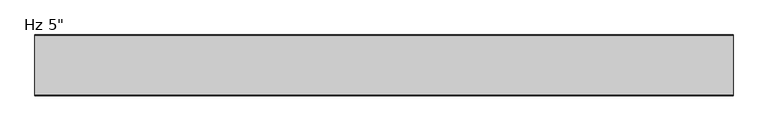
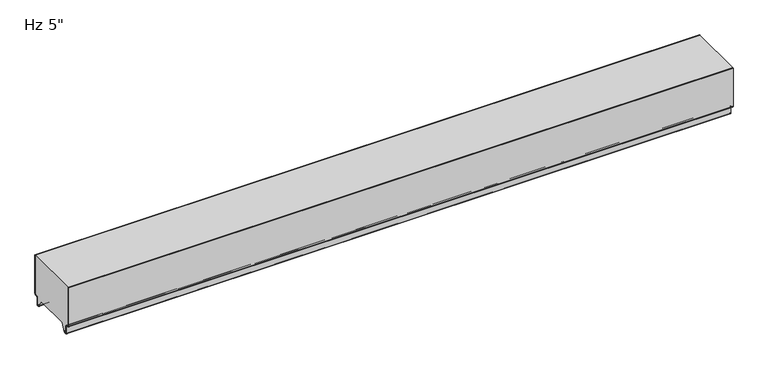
"""IFC4 building model written with IfcOpenShell, lengths in millimetres: plate geometry."""

from ifc_helpers import new_model, si_unit, frame, origin, place, context, project, spatial, polyline, circle_curve, source, transform, mapped, element, save
from ifc_brep_helpers import plane_surface, cylinder_surface, revolved_surface, advanced_brep


def plate_8e9a1042(model_context):
    return source(origin(), model_context, "Body", "AdvancedBrep", [
        advanced_brep(
        [(-730.0, -2.9776189, 3.8501063), (-730.0, -1.0007088, 5.8270163), (-730.0, -1.0007088, 94.95), (-730.0, 0.0, 94.95), (-730.0, 0.0, 5.8272211), (-730.0, -2.977286, 2.8499526), (-730.0, -5.2691698, 2.8499526), (-730.0, -8.2464384, -0.1273159), (-730.0, -8.2464384, -15.7237419), (-730.0, -9.8343149, -17.3116185), (-730.0, -12.9058636, -17.3116185), (-730.0, -14.4937401, -15.7237419), (-730.0, -14.4937401, -13.3687064), (-730.0, -13.4937365, -13.3687064), (-730.0, -13.4937365, -15.7237374), (-730.0, -12.9058654, -16.3116086), (-730.0, -9.834334, -16.3116086), (-730.0, -9.2464768, -15.7237514), (-730.0, -9.2464768, -0.1272391), (-730.0, -5.2691315, 3.8501063), (730.0, -2.9776189, 3.8501063), (730.0, -5.2691315, 3.8501063), (730.0, -9.2464768, -0.1272391), (730.0, -9.2464768, -15.7237514), (730.0, -9.834334, -16.3116086), (730.0, -12.9058654, -16.3116086), (730.0, -13.4937365, -15.7237374), (730.0, -13.4937365, -13.3687064), (730.0, -14.4937401, -13.3687064), (730.0, -14.4937401, -15.7237419), (730.0, -12.9058636, -17.3116185), (730.0, -9.8343149, -17.3116185), (730.0, -8.2464384, -15.7237419), (730.0, -8.2464384, -0.1273159), (730.0, -5.2691698, 2.8499526), (730.0, -2.977286, 2.8499526), (730.0, -1.75e-05, 5.8272211), (730.0, 0.0, 94.95), (730.0, -1.0007088, 94.95), (730.0, -1.0007088, 5.8270163)],
        [
            (0, 1, circle_curve(frame((-730.0, -2.9776189, 5.8270163), z_axis=(1.0, 0.0, 0.0), x_axis=(0.0, 1.0, 0.0)), 1.9769101)),
            (1, 2),
            (2, 3),
            (3, 4),
            (4, 5, circle_curve(frame((-730.0, -2.977286, 5.8272211), z_axis=(-1.0, 0.0, 0.0), x_axis=(0.0, 1.0, 0.0)), 2.9772685)),
            (5, 6),
            (6, 7, circle_curve(frame((-730.0, -5.2691698, -0.1273159), z_axis=(1.0, 0.0, 0.0), x_axis=(0.0, 1.0, 0.0)), 2.9772685)),
            (7, 8),
            (8, 9, circle_curve(frame((-730.0, -9.8343149, -15.7237419), z_axis=(-1.0, 0.0, 0.0), x_axis=(0.0, 1.0, 0.0)), 1.5878765)),
            (9, 10),
            (10, 11, circle_curve(frame((-730.0, -12.9058636, -15.7237419), z_axis=(-1.0, 0.0, 0.0), x_axis=(0.0, 1.0, 0.0)), 1.5878765)),
            (11, 12),
            (12, 13),
            (13, 14),
            (14, 15, circle_curve(frame((-730.0, -12.9058654, -15.7237374), z_axis=(1.0, 0.0, 0.0), x_axis=(0.0, 1.0, 0.0)), 0.5878711)),
            (15, 16),
            (16, 17, circle_curve(frame((-730.0, -9.834334, -15.7237514), z_axis=(1.0, 0.0, 0.0), x_axis=(0.0, 1.0, 0.0)), 0.5878572)),
            (17, 18),
            (18, 19, circle_curve(frame((-730.0, -5.2691315, -0.1272391), z_axis=(-1.0, 0.0, 0.0), x_axis=(0.0, 1.0, 0.0)), 3.9773454)),
            (19, 0),
            (20, 21),
            (21, 22, circle_curve(frame((730.0, -5.2691315, -0.1272391), z_axis=(1.0, 0.0, 0.0), x_axis=(0.0, 1.0, 0.0)), 3.9773454)),
            (22, 23),
            (23, 24, circle_curve(frame((730.0, -9.834334, -15.7237514), z_axis=(-1.0, 0.0, 0.0), x_axis=(0.0, 1.0, 0.0)), 0.5878572)),
            (24, 25),
            (25, 26, circle_curve(frame((730.0, -12.9058654, -15.7237374), z_axis=(-1.0, 0.0, 0.0), x_axis=(0.0, 1.0, 0.0)), 0.5878711)),
            (26, 27),
            (27, 28),
            (28, 29),
            (29, 30, circle_curve(frame((730.0, -12.9058636, -15.7237419), z_axis=(1.0, 0.0, 0.0), x_axis=(0.0, 1.0, 0.0)), 1.5878765)),
            (30, 31),
            (31, 32, circle_curve(frame((730.0, -9.8343149, -15.7237419), z_axis=(1.0, 0.0, 0.0), x_axis=(0.0, 1.0, 0.0)), 1.5878765)),
            (32, 33),
            (33, 34, circle_curve(frame((730.0, -5.2691698, -0.1273159), z_axis=(-1.0, 0.0, 0.0), x_axis=(0.0, 1.0, 0.0)), 2.9772685)),
            (34, 35),
            (35, 36, circle_curve(frame((730.0, -2.977286, 5.8272211), z_axis=(1.0, 0.0, 0.0), x_axis=(0.0, 1.0, 0.0)), 2.9772685)),
            (36, 37),
            (37, 38),
            (38, 39),
            (39, 20, circle_curve(frame((730.0, -2.9776189, 5.8270163), z_axis=(-1.0, 0.0, 0.0), x_axis=(0.0, 1.0, 0.0)), 1.9769101)),
            (2, 38),
            (37, 3),
            (19, 21),
            (20, 0),
            (18, 22),
            (17, 23),
            (16, 24),
            (15, 25),
            (14, 26),
            (13, 27),
            (12, 28),
            (11, 29),
            (10, 30),
            (9, 31),
            (8, 32),
            (7, 33),
            (6, 34),
            (5, 35),
            (4, 36),
            (1, 39),
        ],
        [
            plane_surface(frame((-730.0, 0.0, 576.2625), z_axis=(-1.0, 0.0, 0.0), x_axis=(0.0, 1.0, 0.0))),
            plane_surface(frame((730.0, 0.0, 576.2625), z_axis=(1.0, 0.0, 0.0), x_axis=(0.0, 1.0, 0.0))),
            plane_surface(frame((730.0, 10.0, 94.95), z_axis=(0.0, 0.0, 1.0), x_axis=(-1.0, 0.0, 0.0))),
            plane_surface(frame((-730.0, -2.9776189, 3.8501063), z_axis=(0.0, 0.0, 1.0), x_axis=(1.0, 0.0, 0.0))),
            cylinder_surface(frame((-730.0, -5.2691315, -0.1272391), z_axis=(-1.0, 0.0, 0.0), x_axis=(0.0, 1.0, 0.0)), 3.9773454),
            plane_surface(frame((-730.0, -9.2464768, -0.1272391), z_axis=(0.0, -1.0, 0.0), x_axis=(1.0, 0.0, 0.0))),
            revolved_surface(polyline([(730.0, -9.2464768, -15.7237514), (-730.0, -9.2464768, -15.7237514)]), (-730.0, -9.834334, -15.7237514), (1.0, 0.0, 0.0)),
            plane_surface(frame((-730.0, -9.834334, -16.3116086), z_axis=(0.0, 0.0, 1.0), x_axis=(1.0, 0.0, 0.0))),
            revolved_surface(polyline([(730.0, -12.3179943, -15.7237374), (-730.0, -12.3179943, -15.7237374)]), (-730.0, -12.9058654, -15.7237374), (1.0, 0.0, 0.0)),
            plane_surface(frame((-730.0, -13.4937365, -15.7237374), z_axis=(0.0, 1.0, 0.0), x_axis=(1.0, 0.0, 0.0))),
            plane_surface(frame((-730.0, -13.4937365, -13.3687064), z_axis=(0.0, 0.0, 1.0), x_axis=(1.0, 0.0, 0.0))),
            plane_surface(frame((-730.0, -14.4937401, -13.3687064), z_axis=(0.0, -1.0, 0.0), x_axis=(1.0, 0.0, 0.0))),
            cylinder_surface(frame((-730.0, -12.9058636, -15.7237419), z_axis=(-1.0, 0.0, 0.0), x_axis=(0.0, 1.0, 0.0)), 1.5878765),
            plane_surface(frame((-730.0, -12.9058636, -17.3116185), z_axis=(0.0, 0.0, -1.0), x_axis=(1.0, 0.0, 0.0))),
            cylinder_surface(frame((-730.0, -9.8343149, -15.7237419), z_axis=(-1.0, 0.0, 0.0), x_axis=(0.0, 1.0, 0.0)), 1.5878765),
            plane_surface(frame((-730.0, -8.2464384, -15.7237419), z_axis=(0.0, 1.0, 0.0), x_axis=(1.0, 0.0, 0.0))),
            revolved_surface(polyline([(730.0, -2.2919013, -0.1273159), (-730.0, -2.2919013, -0.1273159)]), (-730.0, -5.2691698, -0.1273159), (1.0, 0.0, 0.0)),
            plane_surface(frame((-730.0, -5.2691698, 2.8499526), z_axis=(0.0, 0.0, -1.0), x_axis=(1.0, 0.0, 0.0))),
            cylinder_surface(frame((-730.0, -2.977286, 5.8272211), z_axis=(-1.0, 0.0, 0.0), x_axis=(0.0, 1.0, 0.0)), 2.9772685),
            plane_surface(frame((-730.0, 0.0, 5.8272211), z_axis=(0.0, 1.0, 0.0), x_axis=(1.0, 0.0, 0.0))),
            plane_surface(frame((-730.0, -1.0007088, 1150.812837), z_axis=(0.0, -1.0, 0.0), x_axis=(1.0, 0.0, 0.0))),
            revolved_surface(polyline([(730.0, -1.0007088, 5.8270163), (-730.0, -1.0007088, 5.8270163)]), (-730.0, -2.9776189, 5.8270163), (1.0, 0.0, 0.0)),
        ],
        [
            (0, [[1, 2, 3, 4, 5, 6, 7, 8, 9, 10, 11, 12, 13, 14, 15, 16, 17, 18, 19, 20]]),
            (1, [[21, 22, 23, 24, 25, 26, 27, 28, 29, 30, 31, 32, 33, 34, 35, 36, 37, 38, 39, 40]]),
            (2, [[41, -38, 42, -3]]),
            (3, [[43, -21, 44, -20]]),
            (4, [[45, -22, -43, -19]]),
            (5, [[46, -23, -45, -18]]),
            (6, [[47, -24, -46, -17]]),
            (7, [[48, -25, -47, -16]]),
            (8, [[49, -26, -48, -15]]),
            (9, [[50, -27, -49, -14]]),
            (10, [[51, -28, -50, -13]]),
            (11, [[52, -29, -51, -12]]),
            (12, [[53, -30, -52, -11]]),
            (13, [[54, -31, -53, -10]]),
            (14, [[55, -32, -54, -9]]),
            (15, [[56, -33, -55, -8]]),
            (16, [[57, -34, -56, -7]]),
            (17, [[58, -35, -57, -6]]),
            (18, [[59, -36, -58, -5]]),
            (19, [[-4, -42, -37, -59]]),
            (20, [[-39, -41, -2, 60]]),
            (21, [[-44, -40, -60, -1]]),
        ],
    ),
        advanced_brep(
        [(-730.0, -124.0223811, 3.8501063), (-730.0, -121.7308685, 3.8501063), (-730.0, -117.7535232, -0.1272391), (-730.0, -117.7535232, -15.7237514), (-730.0, -117.165666, -16.3116086), (-730.0, -114.0941346, -16.3116086), (-730.0, -113.5062635, -15.7237374), (-730.0, -113.5062635, -13.3687064), (-730.0, -112.5062599, -13.3687064), (-730.0, -112.5062599, -15.7237419), (-730.0, -114.0941364, -17.3116185), (-730.0, -117.1656851, -17.3116185), (-730.0, -118.7535616, -15.7237419), (-730.0, -118.7535616, -0.1273159), (-730.0, -121.7308302, 2.8499526), (-730.0, -124.022714, 2.8499526), (-730.0, -126.9999825, 5.8272211), (-730.0, -127.0, 94.95), (-730.0, -125.9992912, 94.95), (-730.0, -125.9992912, 5.8270163), (730.0, -124.0223811, 3.8501063), (730.0, -125.9992912, 5.8270163), (730.0, -125.9992912, 94.95), (730.0, -127.0, 94.95), (730.0, -127.0, 5.8272211), (730.0, -124.022714, 2.8499526), (730.0, -121.7308302, 2.8499526), (730.0, -118.7535616, -0.1273159), (730.0, -118.7535616, -15.7237419), (730.0, -117.1656851, -17.3116185), (730.0, -114.0941364, -17.3116185), (730.0, -112.5062599, -15.7237419), (730.0, -112.5062599, -13.3687064), (730.0, -113.5062635, -13.3687064), (730.0, -113.5062635, -15.7237374), (730.0, -114.0941346, -16.3116086), (730.0, -117.165666, -16.3116086), (730.0, -117.7535232, -15.7237514), (730.0, -117.7535232, -0.1272391), (730.0, -121.7308685, 3.8501063)],
        [
            (0, 1),
            (1, 2, circle_curve(frame((-730.0, -121.7308685, -0.1272391), z_axis=(-1.0, 0.0, 0.0), x_axis=(0.0, 0.0, -1.0)), 3.9773454)),
            (2, 3),
            (3, 4, circle_curve(frame((-730.0, -117.165666, -15.7237514), z_axis=(1.0, 0.0, 0.0), x_axis=(0.0, 0.0, -1.0)), 0.5878572)),
            (4, 5),
            (5, 6, circle_curve(frame((-730.0, -114.0941346, -15.7237374), z_axis=(1.0, 0.0, 0.0), x_axis=(0.0, 0.0, -1.0)), 0.5878711)),
            (6, 7),
            (7, 8),
            (8, 9),
            (9, 10, circle_curve(frame((-730.0, -114.0941364, -15.7237419), z_axis=(-1.0, 0.0, 0.0), x_axis=(0.0, 0.0, -1.0)), 1.5878765)),
            (10, 11),
            (11, 12, circle_curve(frame((-730.0, -117.1656851, -15.7237419), z_axis=(-1.0, 0.0, 0.0), x_axis=(0.0, 0.0, -1.0)), 1.5878765)),
            (12, 13),
            (13, 14, circle_curve(frame((-730.0, -121.7308302, -0.1273159), z_axis=(1.0, 0.0, 0.0), x_axis=(0.0, 0.0, -1.0)), 2.9772685)),
            (14, 15),
            (15, 16, circle_curve(frame((-730.0, -124.022714, 5.8272211), z_axis=(-1.0, 0.0, 0.0), x_axis=(0.0, 0.0, -1.0)), 2.9772685)),
            (16, 17),
            (17, 18),
            (18, 19),
            (19, 0, circle_curve(frame((-730.0, -124.0223811, 5.8270163), z_axis=(1.0, 0.0, 0.0), x_axis=(0.0, 0.0, -1.0)), 1.9769101)),
            (20, 21, circle_curve(frame((730.0, -124.0223811, 5.8270163), z_axis=(-1.0, 0.0, 0.0), x_axis=(0.0, 0.0, -1.0)), 1.9769101)),
            (21, 22),
            (22, 23),
            (23, 24),
            (24, 25, circle_curve(frame((730.0, -124.022714, 5.8272211), z_axis=(1.0, 0.0, 0.0), x_axis=(0.0, 0.0, -1.0)), 2.9772685)),
            (25, 26),
            (26, 27, circle_curve(frame((730.0, -121.7308302, -0.1273159), z_axis=(-1.0, 0.0, 0.0), x_axis=(0.0, 0.0, -1.0)), 2.9772685)),
            (27, 28),
            (28, 29, circle_curve(frame((730.0, -117.1656851, -15.7237419), z_axis=(1.0, 0.0, 0.0), x_axis=(0.0, 0.0, -1.0)), 1.5878765)),
            (29, 30),
            (30, 31, circle_curve(frame((730.0, -114.0941364, -15.7237419), z_axis=(1.0, 0.0, 0.0), x_axis=(0.0, 0.0, -1.0)), 1.5878765)),
            (31, 32),
            (32, 33),
            (33, 34),
            (34, 35, circle_curve(frame((730.0, -114.0941346, -15.7237374), z_axis=(-1.0, 0.0, 0.0), x_axis=(0.0, 0.0, -1.0)), 0.5878711)),
            (35, 36),
            (36, 37, circle_curve(frame((730.0, -117.165666, -15.7237514), z_axis=(-1.0, 0.0, 0.0), x_axis=(0.0, 0.0, -1.0)), 0.5878572)),
            (37, 38),
            (38, 39, circle_curve(frame((730.0, -121.7308685, -0.1272391), z_axis=(1.0, 0.0, 0.0), x_axis=(0.0, 0.0, -1.0)), 3.9773454)),
            (39, 20),
            (17, 23),
            (22, 18),
            (19, 21),
            (20, 0),
            (16, 24),
            (15, 25),
            (14, 26),
            (13, 27),
            (12, 28),
            (11, 29),
            (10, 30),
            (9, 31),
            (8, 32),
            (7, 33),
            (6, 34),
            (5, 35),
            (4, 36),
            (3, 37),
            (2, 38),
            (1, 39),
        ],
        [
            plane_surface(frame((-730.0, -127.0, 576.2625), z_axis=(-1.0, 0.0, 0.0), x_axis=(0.0, -1.0, 0.0))),
            plane_surface(frame((730.0, -127.0, 576.2625), z_axis=(1.0, 0.0, 0.0), x_axis=(0.0, -1.0, 0.0))),
            plane_surface(frame((730.0, 10.0, 94.95), z_axis=(0.0, 0.0, 1.0), x_axis=(-1.0, 0.0, 0.0))),
            revolved_surface(polyline([(730.0, -124.0223811, 3.8501062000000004), (-730.0, -124.0223811, 3.8501062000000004)]), (-730.0, -124.0223811, 5.8270163), (1.0, 0.0, 0.0)),
            plane_surface(frame((-730.0, -125.9992912, 5.8270163), z_axis=(0.0, 1.0, 0.0), x_axis=(1.0, 0.0, 0.0))),
            plane_surface(frame((-730.0, -127.0, 1150.8100652), z_axis=(0.0, -1.0, 0.0), x_axis=(1.0, 0.0, 0.0))),
            cylinder_surface(frame((-730.0, -124.022714, 5.8272211), z_axis=(-1.0, 0.0, 0.0), x_axis=(0.0, 0.0, -1.0)), 2.9772685),
            plane_surface(frame((-730.0, -124.022714, 2.8499526), z_axis=(0.0, 0.0, -1.0), x_axis=(1.0, 0.0, 0.0))),
            revolved_surface(polyline([(730.0, -121.7308302, -3.1045844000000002), (-730.0, -121.7308302, -3.1045844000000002)]), (-730.0, -121.7308302, -0.1273159), (1.0, 0.0, 0.0)),
            plane_surface(frame((-730.0, -118.7535616, -0.1273159), z_axis=(0.0, -1.0, 0.0), x_axis=(1.0, 0.0, 0.0))),
            cylinder_surface(frame((-730.0, -117.1656851, -15.7237419), z_axis=(-1.0, 0.0, 0.0), x_axis=(0.0, 0.0, -1.0)), 1.5878765),
            plane_surface(frame((-730.0, -117.1656851, -17.3116185), z_axis=(0.0, 0.0, -1.0), x_axis=(1.0, 0.0, 0.0))),
            cylinder_surface(frame((-730.0, -114.0941364, -15.7237419), z_axis=(-1.0, 0.0, 0.0), x_axis=(0.0, 0.0, -1.0)), 1.5878765),
            plane_surface(frame((-730.0, -112.5062599, -15.7237419), z_axis=(0.0, 1.0, 0.0), x_axis=(1.0, 0.0, 0.0))),
            plane_surface(frame((-730.0, -112.5062599, -13.3687064), z_axis=(0.0, 0.0, 1.0), x_axis=(1.0, 0.0, 0.0))),
            plane_surface(frame((-730.0, -113.5062635, -13.3687064), z_axis=(0.0, -1.0, 0.0), x_axis=(1.0, 0.0, 0.0))),
            revolved_surface(polyline([(730.0, -114.0941346, -16.3116085), (-730.0, -114.0941346, -16.3116085)]), (-730.0, -114.0941346, -15.7237374), (1.0, 0.0, 0.0)),
            plane_surface(frame((-730.0, -114.0941346, -16.3116086), z_axis=(0.0, 0.0, 1.0), x_axis=(1.0, 0.0, 0.0))),
            revolved_surface(polyline([(730.0, -117.165666, -16.3116086), (-730.0, -117.165666, -16.3116086)]), (-730.0, -117.165666, -15.7237514), (1.0, 0.0, 0.0)),
            plane_surface(frame((-730.0, -117.7535232, -15.7237514), z_axis=(0.0, 1.0, 0.0), x_axis=(1.0, 0.0, 0.0))),
            cylinder_surface(frame((-730.0, -121.7308685, -0.1272391), z_axis=(-1.0, 0.0, 0.0), x_axis=(0.0, 0.0, -1.0)), 3.9773454),
            plane_surface(frame((-730.0, -121.7308685, 3.8501063), z_axis=(0.0, 0.0, 1.0), x_axis=(1.0, 0.0, 0.0))),
        ],
        [
            (0, [[1, 2, 3, 4, 5, 6, 7, 8, 9, 10, 11, 12, 13, 14, 15, 16, 17, 18, 19, 20]]),
            (1, [[21, 22, 23, 24, 25, 26, 27, 28, 29, 30, 31, 32, 33, 34, 35, 36, 37, 38, 39, 40]]),
            (2, [[41, -23, 42, -18]]),
            (3, [[43, -21, 44, -20]]),
            (4, [[-19, -42, -22, -43]]),
            (5, [[-24, -41, -17, 45]]),
            (6, [[46, -25, -45, -16]]),
            (7, [[47, -26, -46, -15]]),
            (8, [[48, -27, -47, -14]]),
            (9, [[49, -28, -48, -13]]),
            (10, [[50, -29, -49, -12]]),
            (11, [[51, -30, -50, -11]]),
            (12, [[52, -31, -51, -10]]),
            (13, [[53, -32, -52, -9]]),
            (14, [[54, -33, -53, -8]]),
            (15, [[55, -34, -54, -7]]),
            (16, [[56, -35, -55, -6]]),
            (17, [[57, -36, -56, -5]]),
            (18, [[58, -37, -57, -4]]),
            (19, [[59, -38, -58, -3]]),
            (20, [[60, -39, -59, -2]]),
            (21, [[-44, -40, -60, -1]]),
        ],
    ),
        advanced_brep(
        [(-730.0, -124.0227194, 3.8499499), (-730.0, -125.9999935, 5.8272239), (-730.0, -126.0, 94.95), (-730.0, -1.0, 94.95), (-730.0, -1.0, 5.8272239), (-730.0, -2.9772806, 3.8499499), (-730.0, -5.2691705, 3.8499499), (-730.0, -9.2464377, -0.1273173), (-730.0, -9.2464377, -15.7237417), (-730.0, -9.8343146, -16.3116186), (-730.0, -12.9058635, -16.3116186), (-730.0, -13.4937402, -15.723742), (-730.0, -13.4937402, -13.3687064), (-730.0, -14.4937402, -13.3687064), (-730.0, -14.4937402, -15.6582851), (-730.0, -23.7509135, 0.0), (-730.0, -103.2490865, 0.0), (-730.0, -112.5062598, -15.6582851), (-730.0, -112.5062598, -13.3687064), (-730.0, -113.5062598, -13.3687064), (-730.0, -113.5062598, -15.723742), (-730.0, -114.0941365, -16.3116186), (-730.0, -117.1656854, -16.3116186), (-730.0, -117.7535623, -15.7237417), (-730.0, -117.7535623, -0.1273173), (-730.0, -121.7308295, 3.8499499), (730.0, -124.0227194, 3.8499499), (730.0, -121.7308295, 3.8499499), (730.0, -117.7535623, -0.1273173), (730.0, -117.7535623, -15.7237417), (730.0, -117.1656854, -16.3116186), (730.0, -114.0941365, -16.3116186), (730.0, -113.5062598, -15.723742), (730.0, -113.5062598, -13.3687064), (730.0, -112.5062598, -13.3687064), (730.0, -112.5062598, -15.6582851), (730.0, -103.2490865, 0.0), (730.0, -23.7509179, 0.0), (730.0, -14.4937402, -15.6582851), (730.0, -14.4937402, -13.3687064), (730.0, -13.4937402, -13.3687064), (730.0, -13.4937402, -15.723742), (730.0, -12.9058635, -16.3116186), (730.0, -9.8343146, -16.3116186), (730.0, -9.2464377, -15.7237417), (730.0, -9.2464377, -0.1273173), (730.0, -5.2691705, 3.8499499), (730.0, -2.9772806, 3.8499499), (730.0, -1.0000065, 5.8272239), (730.0, -1.0, 94.95), (730.0, -126.0, 94.95), (730.0, -126.0, 5.8272239)],
        [
            (0, 1, circle_curve(frame((-730.0, -124.0227194, 5.8272239), z_axis=(-1.0, 0.0, 0.0), x_axis=(0.0, 0.0, -1.0)), 1.977274)),
            (1, 2),
            (2, 3),
            (3, 4),
            (4, 5, circle_curve(frame((-730.0, -2.9772806, 5.8272239), z_axis=(-1.0, 0.0, 0.0), x_axis=(0.0, 1.0, 0.0)), 1.977274)),
            (5, 6),
            (6, 7, circle_curve(frame((-730.0, -5.2691705, -0.1273173), z_axis=(1.0, 0.0, 0.0), x_axis=(0.0, 1.0, 0.0)), 3.9772671)),
            (7, 8),
            (8, 9, circle_curve(frame((-730.0, -9.8343146, -15.7237417), z_axis=(-1.0, 0.0, 0.0), x_axis=(0.0, 1.0, 0.0)), 0.5878769)),
            (9, 10),
            (10, 11, circle_curve(frame((-730.0, -12.9058635, -15.723742), z_axis=(-1.0, 0.0, 0.0), x_axis=(0.0, 1.0, 0.0)), 0.5878766)),
            (11, 12),
            (12, 13),
            (13, 14),
            (14, 15),
            (15, 16),
            (16, 17),
            (17, 18),
            (18, 19),
            (19, 20),
            (20, 21, circle_curve(frame((-730.0, -114.0941365, -15.723742), z_axis=(-1.0, 0.0, 0.0), x_axis=(0.0, 0.0, -1.0)), 0.5878766)),
            (21, 22),
            (22, 23, circle_curve(frame((-730.0, -117.1656854, -15.7237417), z_axis=(-1.0, 0.0, 0.0), x_axis=(0.0, 0.0, -1.0)), 0.5878769)),
            (23, 24),
            (24, 25, circle_curve(frame((-730.0, -121.7308295, -0.1273173), z_axis=(1.0, 0.0, 0.0), x_axis=(0.0, 0.0, -1.0)), 3.9772671)),
            (25, 0),
            (26, 27),
            (27, 28, circle_curve(frame((730.0, -121.7308295, -0.1273173), z_axis=(-1.0, 0.0, 0.0), x_axis=(0.0, 0.0, -1.0)), 3.9772671)),
            (28, 29),
            (29, 30, circle_curve(frame((730.0, -117.1656854, -15.7237417), z_axis=(1.0, 0.0, 0.0), x_axis=(0.0, 0.0, -1.0)), 0.5878769)),
            (30, 31),
            (31, 32, circle_curve(frame((730.0, -114.0941365, -15.723742), z_axis=(1.0, 0.0, 0.0), x_axis=(0.0, 0.0, -1.0)), 0.5878766)),
            (32, 33),
            (33, 34),
            (34, 35),
            (35, 36),
            (36, 37),
            (37, 38),
            (38, 39),
            (39, 40),
            (40, 41),
            (41, 42, circle_curve(frame((730.0, -12.9058635, -15.723742), z_axis=(1.0, 0.0, 0.0), x_axis=(0.0, 1.0, 0.0)), 0.5878766)),
            (42, 43),
            (43, 44, circle_curve(frame((730.0, -9.8343146, -15.7237417), z_axis=(1.0, 0.0, 0.0), x_axis=(0.0, 1.0, 0.0)), 0.5878769)),
            (44, 45),
            (45, 46, circle_curve(frame((730.0, -5.2691705, -0.1273173), z_axis=(-1.0, 0.0, 0.0), x_axis=(0.0, 1.0, 0.0)), 3.9772671)),
            (46, 47),
            (47, 48, circle_curve(frame((730.0, -2.9772806, 5.8272239), z_axis=(1.0, 0.0, 0.0), x_axis=(0.0, 1.0, 0.0)), 1.977274)),
            (48, 49),
            (49, 50),
            (50, 51),
            (51, 26, circle_curve(frame((730.0, -124.0227194, 5.8272239), z_axis=(1.0, 0.0, 0.0), x_axis=(0.0, 0.0, -1.0)), 1.977274)),
            (36, 16),
            (15, 37),
            (2, 50),
            (49, 3),
            (25, 27),
            (26, 0),
            (24, 28),
            (23, 29),
            (22, 30),
            (21, 31),
            (20, 32),
            (19, 33),
            (18, 34),
            (17, 35),
            (1, 51),
            (4, 48),
            (47, 5),
            (14, 38),
            (13, 39),
            (12, 40),
            (11, 41),
            (10, 42),
            (9, 43),
            (8, 44),
            (7, 45),
            (6, 46),
        ],
        [
            plane_surface(frame((-730.0, -126.0, 576.2625), z_axis=(-1.0, 0.0, 0.0), x_axis=(0.0, -1.0, 0.0))),
            plane_surface(frame((730.0, -126.0, 576.2625), z_axis=(1.0, 0.0, 0.0), x_axis=(0.0, -1.0, 0.0))),
            plane_surface(frame((-730.0, -103.2490865, 0.0), z_axis=(0.0, 0.0, -1.0), x_axis=(1.0, 0.0, 0.0))),
            plane_surface(frame((730.0, 10.0, 94.95), z_axis=(0.0, 0.0, 1.0), x_axis=(-1.0, 0.0, 0.0))),
            plane_surface(frame((-730.0, -124.0227194, 3.8499499), z_axis=(0.0, 0.0, -1.0), x_axis=(1.0, 0.0, 0.0))),
            revolved_surface(polyline([(730.0, -121.7308295, -4.1045844), (-730.0, -121.7308295, -4.1045844)]), (-730.0, -121.7308295, -0.1273173), (1.0, 0.0, 0.0)),
            plane_surface(frame((-730.0, -117.7535623, -0.1273173), z_axis=(0.0, -1.0, 0.0), x_axis=(1.0, 0.0, 0.0))),
            cylinder_surface(frame((-730.0, -117.1656854, -15.7237417), z_axis=(-1.0, 0.0, 0.0), x_axis=(0.0, 0.0, -1.0)), 0.5878769),
            plane_surface(frame((-730.0, -117.1656854, -16.3116186), z_axis=(0.0, 0.0, -1.0), x_axis=(1.0, 0.0, 0.0))),
            cylinder_surface(frame((-730.0, -114.0941365, -15.723742), z_axis=(-1.0, 0.0, 0.0), x_axis=(0.0, 0.0, -1.0)), 0.5878766),
            plane_surface(frame((-730.0, -113.5062598, -15.723742), z_axis=(0.0, 1.0, 0.0), x_axis=(1.0, 0.0, 0.0))),
            plane_surface(frame((-730.0, -113.5062598, -13.3687064), z_axis=(0.0, 0.0, -1.0), x_axis=(1.0, 0.0, 0.0))),
            plane_surface(frame((-730.0, -112.5062598, -13.3687064), z_axis=(0.0, -1.0, 0.0), x_axis=(1.0, 0.0, 0.0))),
            plane_surface(frame((-730.0, -112.5062598, -15.6582851), z_axis=(0.0, 0.8608169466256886, -0.5089147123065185), x_axis=(1.0, 0.0, 0.0))),
            plane_surface(frame((-730.0, -126.0, 1150.8100652), z_axis=(0.0, -1.0, 0.0), x_axis=(1.0, 0.0, 0.0))),
            cylinder_surface(frame((-730.0, -124.0227194, 5.8272239), z_axis=(-1.0, 0.0, 0.0), x_axis=(0.0, 0.0, -1.0)), 1.977274),
            cylinder_surface(frame((-730.0, -2.9772806, 5.8272239), z_axis=(-1.0, 0.0, 0.0), x_axis=(0.0, 1.0, 0.0)), 1.977274),
            plane_surface(frame((-730.0, -1.0, 5.8272239), z_axis=(0.0, 1.0, 0.0), x_axis=(1.0, 0.0, 0.0))),
            plane_surface(frame((-730.0, -23.7509135, 0.0), z_axis=(0.0, -0.8608169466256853, -0.5089147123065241), x_axis=(1.0, 0.0, 0.0))),
            plane_surface(frame((-730.0, -14.4937402, -15.6582851), z_axis=(0.0, 1.0, 0.0), x_axis=(1.0, 0.0, 0.0))),
            plane_surface(frame((-730.0, -14.4937402, -13.3687064), z_axis=(0.0, 0.0, -1.0), x_axis=(1.0, 0.0, 0.0))),
            plane_surface(frame((-730.0, -13.4937402, -13.3687064), z_axis=(0.0, -1.0, 0.0), x_axis=(1.0, 0.0, 0.0))),
            cylinder_surface(frame((-730.0, -12.9058635, -15.723742), z_axis=(-1.0, 0.0, 0.0), x_axis=(0.0, 1.0, 0.0)), 0.5878766),
            plane_surface(frame((-730.0, -12.9058635, -16.3116186), z_axis=(0.0, 0.0, -1.0), x_axis=(1.0, 0.0, 0.0))),
            cylinder_surface(frame((-730.0, -9.8343146, -15.7237417), z_axis=(-1.0, 0.0, 0.0), x_axis=(0.0, 1.0, 0.0)), 0.5878769),
            plane_surface(frame((-730.0, -9.2464377, -15.7237417), z_axis=(0.0, 1.0, 0.0), x_axis=(1.0, 0.0, 0.0))),
            revolved_surface(polyline([(730.0, -1.2919034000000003, -0.1273173), (-730.0, -1.2919034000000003, -0.1273173)]), (-730.0, -5.2691705, -0.1273173), (1.0, 0.0, 0.0)),
            plane_surface(frame((-730.0, -5.2691705, 3.8499499), z_axis=(0.0, 0.0, -1.0), x_axis=(1.0, 0.0, 0.0))),
        ],
        [
            (0, [[1, 2, 3, 4, 5, 6, 7, 8, 9, 10, 11, 12, 13, 14, 15, 16, 17, 18, 19, 20, 21, 22, 23, 24, 25, 26]]),
            (1, [[27, 28, 29, 30, 31, 32, 33, 34, 35, 36, 37, 38, 39, 40, 41, 42, 43, 44, 45, 46, 47, 48, 49, 50, 51, 52]]),
            (2, [[53, -16, 54, -37]]),
            (3, [[55, -50, 56, -3]]),
            (4, [[57, -27, 58, -26]]),
            (5, [[59, -28, -57, -25]]),
            (6, [[60, -29, -59, -24]]),
            (7, [[61, -30, -60, -23]]),
            (8, [[62, -31, -61, -22]]),
            (9, [[63, -32, -62, -21]]),
            (10, [[64, -33, -63, -20]]),
            (11, [[65, -34, -64, -19]]),
            (12, [[66, -35, -65, -18]]),
            (13, [[-53, -36, -66, -17]]),
            (14, [[-51, -55, -2, 67]]),
            (15, [[-58, -52, -67, -1]]),
            (16, [[68, -48, 69, -5]]),
            (17, [[-4, -56, -49, -68]]),
            (18, [[70, -38, -54, -15]]),
            (19, [[71, -39, -70, -14]]),
            (20, [[72, -40, -71, -13]]),
            (21, [[73, -41, -72, -12]]),
            (22, [[74, -42, -73, -11]]),
            (23, [[75, -43, -74, -10]]),
            (24, [[76, -44, -75, -9]]),
            (25, [[77, -45, -76, -8]]),
            (26, [[78, -46, -77, -7]]),
            (27, [[-69, -47, -78, -6]]),
        ],
    ),
    ])


if __name__ == "__main__":
    model = new_model("IFC4")
    model_context = context("Model", 3, world=origin())
    ifc_project = project(units=[si_unit("LENGTHUNIT", "METRE", prefix="MILLI")], contexts=[model_context])
    site = spatial("IfcSite", under=ifc_project)
    building = spatial("IfcBuilding", under=site)
    placement = place(None, origin())
    plate_shape = plate_8e9a1042(model_context)
    element("IfcPlate", 1, ObjectType="KIP-SLI-FLI-R19-CP-Hz-FL_FL : Hz 5\"", at=placement, inside=building, context=model_context, shape_type="MappedRepresentation", body=[
        mapped(plate_shape, transform((0.0, 0.0, 0.0), x_axis=(1.0, 0.0, 0.0), y_axis=(0.0, 1.0, 0.0), z_axis=(0.0, 0.0, 1.0))),
    ])
    save(model, "model.ifc")
